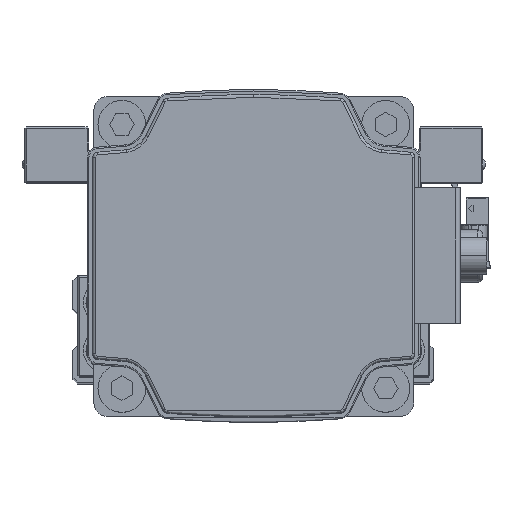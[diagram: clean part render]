
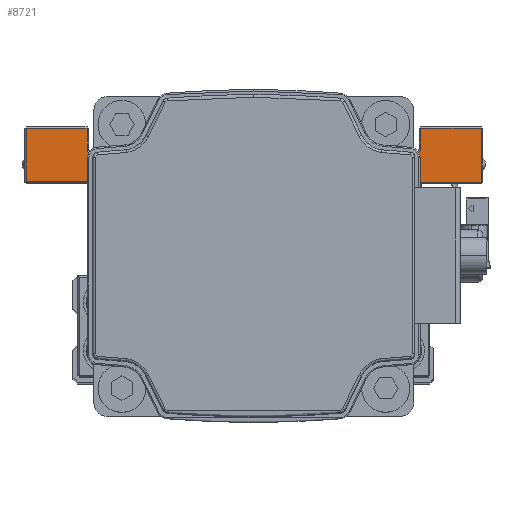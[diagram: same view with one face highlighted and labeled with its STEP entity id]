
A CAD part, top view. The second image highlights one B-rep face of the part: STEP entity #8721.
In plain terms, the highlighted planar face has unit normal (0, 0, 1) as drawn and (1, 0, 0) by its records, which use the part's own axes.
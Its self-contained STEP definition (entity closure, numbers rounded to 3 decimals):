
#72 = EDGE_LOOP ( 'NONE', ( #20820, #8957, #6193, #36127, #7066, #32892, #4697, #16053, #35290, #31727, #24637, #4017, #33203, #29137 ) ) ;
#770 = EDGE_CURVE ( 'NONE', #1399, #7127, #14722, .T. ) ;
#862 = DIRECTION ( 'NONE',  ( 0., 0., 1. ) ) ;
#1399 = VERTEX_POINT ( 'NONE', #34842 ) ;
#1561 = CIRCLE ( 'NONE', #23830, 1.3 ) ;
#2818 = DIRECTION ( 'NONE',  ( 0., -1., 0. ) ) ;
#3424 = EDGE_CURVE ( 'NONE', #22785, #14704, #4836, .T. ) ;
#3511 = EDGE_CURVE ( 'NONE', #14704, #35840, #17928, .T. ) ;
#3599 = DIRECTION ( 'NONE',  ( 0., 0., 1. ) ) ;
#3882 = LINE ( 'NONE', #16018, #37774 ) ;
#4017 = ORIENTED_EDGE ( 'NONE', *, *, #38988, .T. ) ;
#4274 = EDGE_CURVE ( 'NONE', #37488, #33861, #15023, .T. ) ;
#4697 = ORIENTED_EDGE ( 'NONE', *, *, #10793, .T. ) ;
#4836 = LINE ( 'NONE', #16958, #10809 ) ;
#5113 = EDGE_CURVE ( 'NONE', #14296, #36750, #23616, .T. ) ;
#5573 = VECTOR ( 'NONE', #21644, 1000. ) ;
#6193 = ORIENTED_EDGE ( 'NONE', *, *, #14316, .T. ) ;
#6245 = EDGE_CURVE ( 'NONE', #36750, #38958, #8689, .T. ) ;
#6336 = CARTESIAN_POINT ( 'NONE',  ( 45., 7.5, 42.7 ) ) ;
#6618 = CARTESIAN_POINT ( 'NONE',  ( 45., 7.8, 42.7 ) ) ;
#6814 = CARTESIAN_POINT ( 'NONE',  ( 45., 14., 30. ) ) ;
#7066 = ORIENTED_EDGE ( 'NONE', *, *, #3511, .T. ) ;
#7127 = VERTEX_POINT ( 'NONE', #12994 ) ;
#7806 = LINE ( 'NONE', #19951, #30156 ) ;
#8227 = CARTESIAN_POINT ( 'NONE',  ( 45., 7.8, 20. ) ) ;
#8689 = LINE ( 'NONE', #20821, #29035 ) ;
#8721 = ADVANCED_FACE ( 'NONE', ( #24697 ), #36848, .F. ) ;
#8957 = ORIENTED_EDGE ( 'NONE', *, *, #27251, .T. ) ;
#9259 = EDGE_CURVE ( 'NONE', #38958, #23360, #37533, .T. ) ;
#9520 = CARTESIAN_POINT ( 'NONE',  ( 45., 7.5, -42.7 ) ) ;
#9557 = CARTESIAN_POINT ( 'NONE',  ( 45., 7.5, -20. ) ) ;
#10256 = CARTESIAN_POINT ( 'NONE',  ( 45., 17.7, -20. ) ) ;
#10779 = CARTESIAN_POINT ( 'NONE',  ( 45., 14., -31.3 ) ) ;
#10793 = EDGE_CURVE ( 'NONE', #25822, #14296, #18714, .T. ) ;
#10809 = VECTOR ( 'NONE', #29125, 1000. ) ;
#11758 = EDGE_CURVE ( 'NONE', #35840, #25822, #1561, .T. ) ;
#12994 = CARTESIAN_POINT ( 'NONE',  ( 45., -8.2, 19.7 ) ) ;
#13971 = VECTOR ( 'NONE', #2818, 1000. ) ;
#14296 = VERTEX_POINT ( 'NONE', #33622 ) ;
#14316 = EDGE_CURVE ( 'NONE', #21572, #22785, #36813, .T. ) ;
#14704 = VERTEX_POINT ( 'NONE', #21597 ) ;
#14722 = LINE ( 'NONE', #26871, #35348 ) ;
#15023 = LINE ( 'NONE', #27168, #28206 ) ;
#15556 = EDGE_CURVE ( 'NONE', #23360, #29011, #33638, .T. ) ;
#15979 = CARTESIAN_POINT ( 'NONE',  ( 45., 14., -30. ) ) ;
#16018 = CARTESIAN_POINT ( 'NONE',  ( 45., 7.5, 43. ) ) ;
#16053 = ORIENTED_EDGE ( 'NONE', *, *, #5113, .T. ) ;
#16958 = CARTESIAN_POINT ( 'NONE',  ( 45., 17.7, -20. ) ) ;
#17161 = CARTESIAN_POINT ( 'NONE',  ( 45., 17.7, 31.3 ) ) ;
#17283 = VECTOR ( 'NONE', #3599, 1000. ) ;
#17609 = CARTESIAN_POINT ( 'NONE',  ( 45., 7.5, -19.7 ) ) ;
#17928 = LINE ( 'NONE', #30112, #13971 ) ;
#18168 = AXIS2_PLACEMENT_3D ( 'NONE', #9557, #21680, #33851 ) ;
#18470 = DIRECTION ( 'NONE',  ( 0., -1., 0. ) ) ;
#18714 = LINE ( 'NONE', #30890, #17283 ) ;
#18950 = DIRECTION ( 'NONE',  ( -1., 0., 0. ) ) ;
#19951 = CARTESIAN_POINT ( 'NONE',  ( 45., -8.2, -20. ) ) ;
#20361 = DIRECTION ( 'NONE',  ( 0., 0., -1. ) ) ;
#20820 = ORIENTED_EDGE ( 'NONE', *, *, #4274, .T. ) ;
#20821 = CARTESIAN_POINT ( 'NONE',  ( 45., 7.5, 31.3 ) ) ;
#21154 = VECTOR ( 'NONE', #18470, 1000. ) ;
#21572 = VERTEX_POINT ( 'NONE', #26058 ) ;
#21597 = CARTESIAN_POINT ( 'NONE',  ( 45., 17.7, -31.3 ) ) ;
#21644 = DIRECTION ( 'NONE',  ( 0., 1., 0. ) ) ;
#21680 = DIRECTION ( 'NONE',  ( -1., 0., 0. ) ) ;
#22386 = DIRECTION ( 'NONE',  ( 0., 0., 1. ) ) ;
#22785 = VERTEX_POINT ( 'NONE', #38084 ) ;
#22803 = EDGE_CURVE ( 'NONE', #7127, #37488, #7806, .T. ) ;
#23360 = VERTEX_POINT ( 'NONE', #30407 ) ;
#23616 = CIRCLE ( 'NONE', #28710, 1.3 ) ;
#23830 = AXIS2_PLACEMENT_3D ( 'NONE', #15979, #28144, #862 ) ;
#24005 = CARTESIAN_POINT ( 'NONE',  ( 45., -8.2, -19.7 ) ) ;
#24637 = ORIENTED_EDGE ( 'NONE', *, *, #15556, .T. ) ;
#24697 = FACE_OUTER_BOUND ( 'NONE', #72, .T. ) ;
#25822 = VERTEX_POINT ( 'NONE', #29379 ) ;
#26058 = CARTESIAN_POINT ( 'NONE',  ( 45., 7.5, -42.7 ) ) ;
#26466 = VECTOR ( 'NONE', #22386, 1000. ) ;
#26871 = CARTESIAN_POINT ( 'NONE',  ( 45., 7.5, 19.7 ) ) ;
#27168 = CARTESIAN_POINT ( 'NONE',  ( 45., 7.5, -19.7 ) ) ;
#27251 = EDGE_CURVE ( 'NONE', #33861, #21572, #3882, .T. ) ;
#28144 = DIRECTION ( 'NONE',  ( -1., 0., 0. ) ) ;
#28186 = DIRECTION ( 'NONE',  ( 0., 0., -1. ) ) ;
#28206 = VECTOR ( 'NONE', #39322, 1000. ) ;
#28710 = AXIS2_PLACEMENT_3D ( 'NONE', #6814, #18950, #31120 ) ;
#29011 = VERTEX_POINT ( 'NONE', #6618 ) ;
#29035 = VECTOR ( 'NONE', #32987, 1000. ) ;
#29125 = DIRECTION ( 'NONE',  ( 0., 0., 1. ) ) ;
#29137 = ORIENTED_EDGE ( 'NONE', *, *, #22803, .T. ) ;
#29372 = CARTESIAN_POINT ( 'NONE',  ( 45., 14., 31.3 ) ) ;
#29379 = CARTESIAN_POINT ( 'NONE',  ( 45., 12.7, -30. ) ) ;
#30112 = CARTESIAN_POINT ( 'NONE',  ( 45., 7.5, -31.3 ) ) ;
#30156 = VECTOR ( 'NONE', #32132, 1000. ) ;
#30407 = CARTESIAN_POINT ( 'NONE',  ( 45., 17.7, 42.7 ) ) ;
#30890 = CARTESIAN_POINT ( 'NONE',  ( 45., 12.7, 30. ) ) ;
#31120 = DIRECTION ( 'NONE',  ( 0., 0., 1. ) ) ;
#31727 = ORIENTED_EDGE ( 'NONE', *, *, #9259, .T. ) ;
#31925 = VECTOR ( 'NONE', #20361, 1000. ) ;
#32132 = DIRECTION ( 'NONE',  ( 0., 0., -1. ) ) ;
#32892 = ORIENTED_EDGE ( 'NONE', *, *, #11758, .T. ) ;
#32987 = DIRECTION ( 'NONE',  ( 0., 1., 0. ) ) ;
#33203 = ORIENTED_EDGE ( 'NONE', *, *, #770, .T. ) ;
#33622 = CARTESIAN_POINT ( 'NONE',  ( 45., 12.7, 30. ) ) ;
#33638 = LINE ( 'NONE', #6336, #21154 ) ;
#33851 = DIRECTION ( 'NONE',  ( 0., 0., 1. ) ) ;
#33861 = VERTEX_POINT ( 'NONE', #17609 ) ;
#34842 = CARTESIAN_POINT ( 'NONE',  ( 45., 7.8, 19.7 ) ) ;
#35290 = ORIENTED_EDGE ( 'NONE', *, *, #6245, .T. ) ;
#35348 = VECTOR ( 'NONE', #39042, 1000. ) ;
#35530 = LINE ( 'NONE', #8227, #31925 ) ;
#35840 = VERTEX_POINT ( 'NONE', #10779 ) ;
#36127 = ORIENTED_EDGE ( 'NONE', *, *, #3424, .T. ) ;
#36750 = VERTEX_POINT ( 'NONE', #29372 ) ;
#36813 = LINE ( 'NONE', #9520, #5573 ) ;
#36848 = PLANE ( 'NONE',  #18168 ) ;
#37488 = VERTEX_POINT ( 'NONE', #24005 ) ;
#37533 = LINE ( 'NONE', #10256, #26466 ) ;
#37774 = VECTOR ( 'NONE', #28186, 1000. ) ;
#38084 = CARTESIAN_POINT ( 'NONE',  ( 45., 17.7, -42.7 ) ) ;
#38958 = VERTEX_POINT ( 'NONE', #17161 ) ;
#38988 = EDGE_CURVE ( 'NONE', #29011, #1399, #35530, .T. ) ;
#39042 = DIRECTION ( 'NONE',  ( 0., -1., 0. ) ) ;
#39322 = DIRECTION ( 'NONE',  ( 0., 1., 0. ) ) ;
